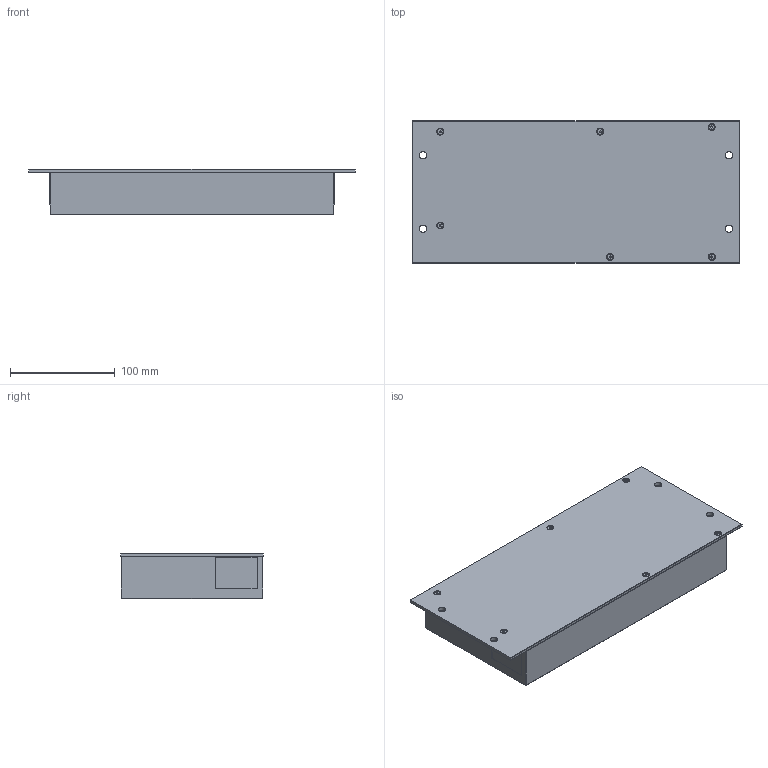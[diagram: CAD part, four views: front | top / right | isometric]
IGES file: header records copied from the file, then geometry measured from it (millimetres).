
Start section: SolidWorks IGES file using analytic representation for surfaces
Global section: file name: C:\Temp\OLQ-batchEngine\queue\temp_\4326810swm000.igs; native system: SolidWorks 2020; preprocessor: SolidWorks 2020; author: SYSTEM; date: 210707.171258; units: millimetre
Bounding box: 312 x 136 x 43 mm (x, y, z)
Surface area: 193918 mm2 (no closed solid volume)
Topology: 0 solids, 0 shells, 242 faces, 2084 edges, 2068 vertices
Faces by surface type: revolution 122, bspline 120
